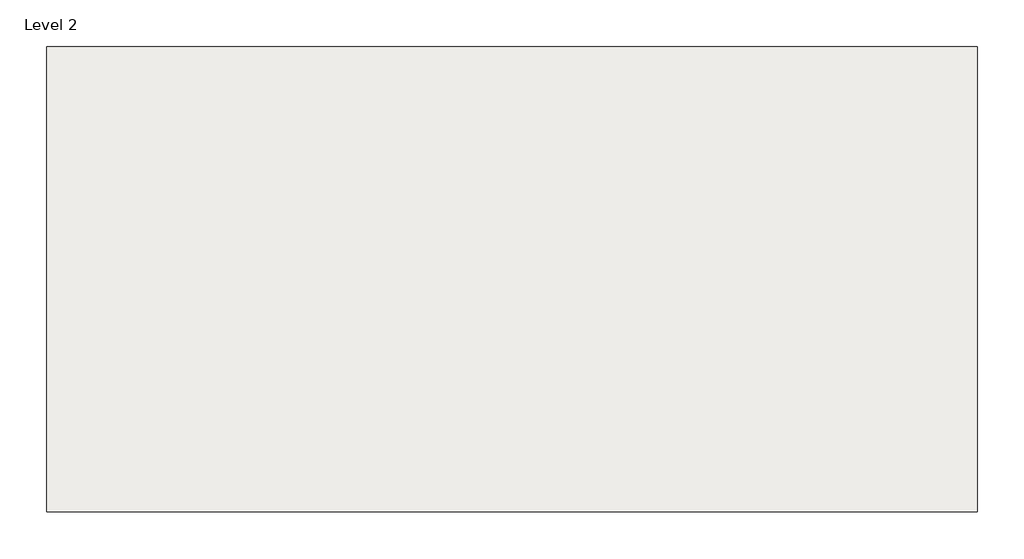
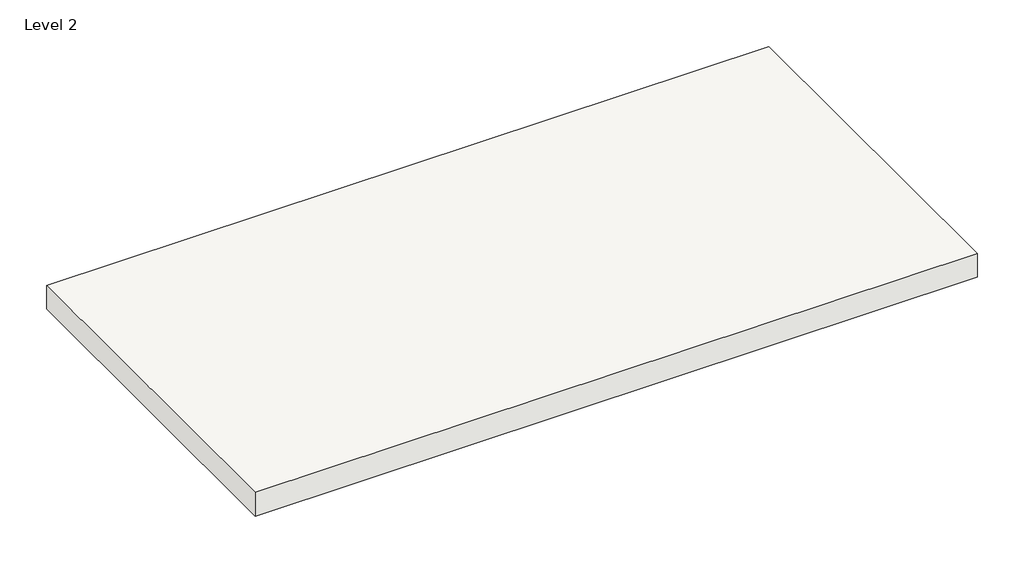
# One storey: 1 slab.
"""IFC4 building model written with IfcOpenShell, lengths in millimetres."""

from ifc_helpers import new_model, si_unit, frame, origin, place, context, project, spatial, polyline, outline, extrude, element, save

model = new_model("IFC4")

# Units and contexts
model_context = context("Model", 3, world=origin())
ifc_project = project(units=[si_unit("LENGTHUNIT", "METRE", prefix="MILLI")], contexts=[model_context])

# Site, building, storey
site = spatial("IfcSite", under=ifc_project)
building = spatial("IfcBuilding", under=site)
storey = spatial("IfcBuildingStorey", under=building, Name="Level 2", Elevation=3048.0)

# Slab
placement = place(None, origin())
element("IfcSlab", 1, ObjectType="Toris CA - 2.5\" Deep Acoustic Floor Deck", at=placement, inside=storey, context=model_context, shape_type="SweptSolid", body=[
    extrude(outline(polyline([(-8968.1893377, 1330.2956878), (-8968.1893377, -498.5043122), (-12625.7893377, -498.5043122), (-12625.7893377, 1330.2956878), (-8968.1893377, 1330.2956878)])), frame((0.0, 0.0, 2921.0), z_axis=(0.0, 0.0, 1.0), x_axis=(1.0, 0.0, 0.0)), (0.0, 0.0, 1.0), 127.0),
])

save(model, "model.ifc")
